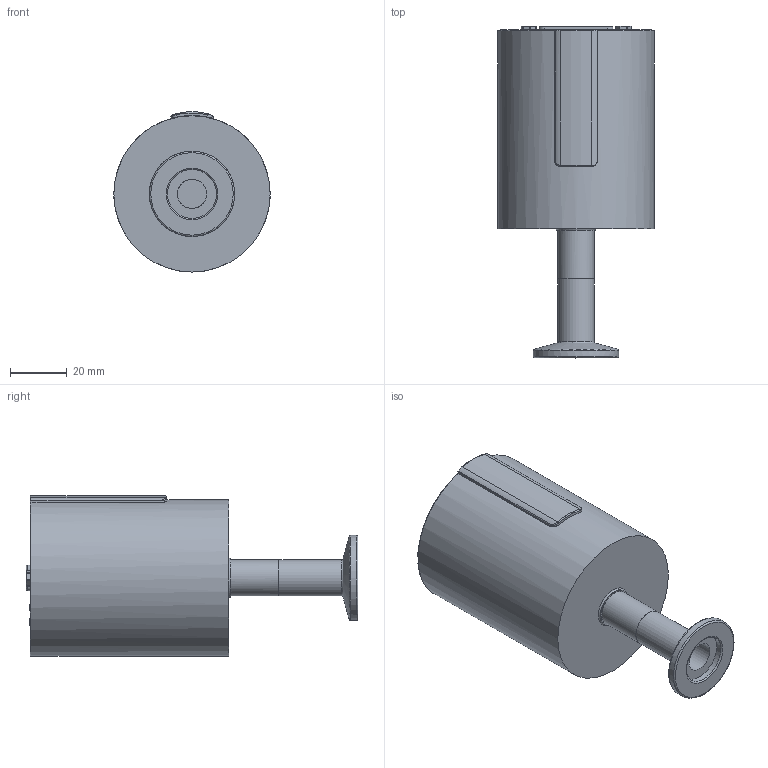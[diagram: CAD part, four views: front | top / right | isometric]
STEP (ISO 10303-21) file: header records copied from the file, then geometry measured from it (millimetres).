
FILE_DESCRIPTION (( 'STEP AP203' ), '1' );
FILE_NAME ('RBM-500 KF16 - ¸±±¾.STEP', '2025-10-24T02:09:31', ( '' ), ( '' ), 'SwSTEP 2.0', 'SolidWorks 2021', '' );
FILE_SCHEMA (( 'CONFIG_CONTROL_DESIGN' ));
Length unit declared in the file: millimetre
Products named in the file (1): RBM-500 KF16 - 萵掛
Bounding box: 55 x 116.81 x 56.34 mm (x, y, z)
Surface area: 23532.7 mm2 (no closed solid volume)
Topology: 0 solids, 15 shells, 597 faces, 1525 edges, 999 vertices
Faces by surface type: plane 271, cylinder 179, bspline 107, cone 23, torus 16, sphere 1
Full cylindrical faces by diameter (mm): 1.2 x2, 2.2 x2, 3.2 x3, 3.3 x3, 10.3 x2, 12.7 x2, 13.7 x1, 17.2 x1, 30 x1, 55 x1
Entity records: 26104 total; most frequent: CARTESIAN_POINT 12787, ORIENTED_EDGE 2960, DIRECTION 2257, EDGE_CURVE 1481, VERTEX_POINT 982, VECTOR 859, LINE 859, AXIS2_PLACEMENT_3D 699
